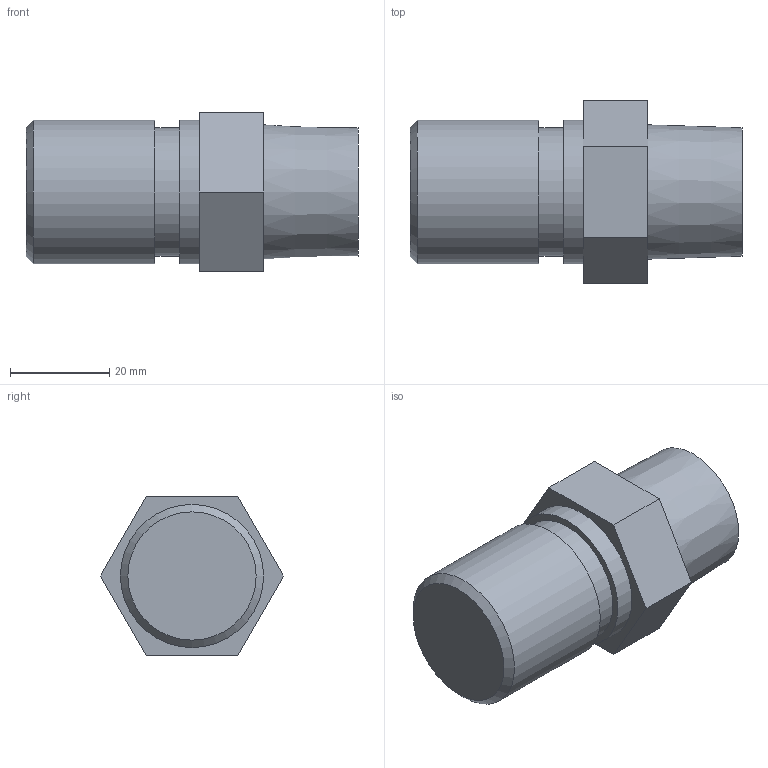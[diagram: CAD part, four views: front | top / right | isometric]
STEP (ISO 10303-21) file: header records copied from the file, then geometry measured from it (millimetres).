
FILE_DESCRIPTION((''),'2;1');
FILE_NAME('Z:\客先\あ行\アオイ\99_その他\3D_DATA\CPR_Series\8CPR-SPV-R\STEP\203\CPR-SPV-R3-4.ipt.stp','2008-07-04T11:08:44',(''),(''),'Autodesk Inventor 2009','Autodesk Inventor 2009','');
FILE_SCHEMA(('CONFIG_CONTROL_DESIGN'));
Length unit declared in the file: millimetre
Products named in the file (1): CPR-SPV-R3-4
Bounding box: 67 x 36.95 x 32 mm (x, y, z)
Volume: 44249.8 mm3; surface area: 8047.7 mm2
Topology: 1 solids, 1 shells, 17 faces, 32 edges, 21 vertices
Faces by surface type: plane 12, cylinder 3, cone 2
Full cylindrical faces by diameter (mm): 26 x1, 28.9 x2
Entity records: 419 total; most frequent: DIRECTION 72, CARTESIAN_POINT 66, ORIENTED_EDGE 54, AXIS2_PLACEMENT_3D 27, EDGE_CURVE 27, EDGE_LOOP 26, VERTEX_POINT 21, VECTOR 18
